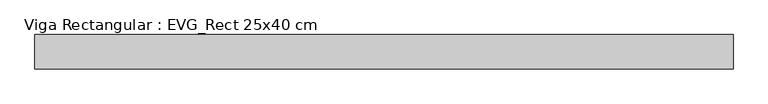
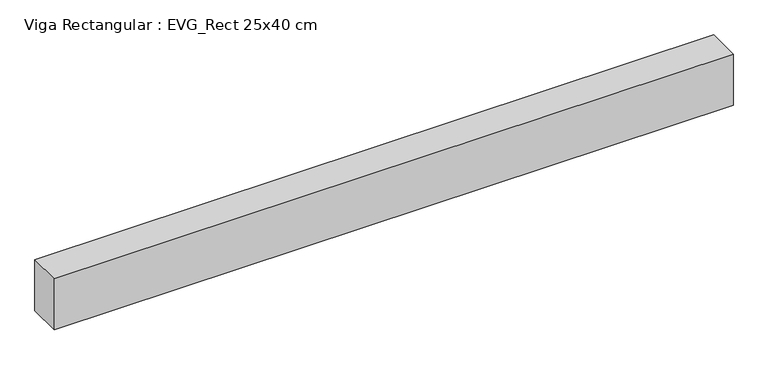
"""IFC4 building model written with IfcOpenShell, lengths in millimetres: beam geometry, Viga Rectangular : EVG_Rect 25x40 cm."""

from ifc_helpers import new_model, si_unit, frame, origin, place, context, project, spatial, polyline, outline, extrude, source, transform, mapped, element, save


def viga_rectangular_evg_rect_25x40_cm_8e48b35e(model_context):
    return source(origin(), model_context, "Body", "SweptSolid", [
        extrude(outline(polyline([(2525.0, 125.0), (2525.0, -125.0), (-2525.0, -125.0), (-2525.0, 125.0), (2525.0, 125.0)])), frame((0.0, 0.0, -400.0), z_axis=(0.0, 0.0, 1.0), x_axis=(1.0, 0.0, 0.0)), (0.0, 0.0, 1.0), 400.0),
    ])


if __name__ == "__main__":
    model = new_model("IFC4")
    model_context = context("Model", 3, world=origin())
    ifc_project = project(units=[si_unit("LENGTHUNIT", "METRE", prefix="MILLI")], contexts=[model_context])
    site = spatial("IfcSite", under=ifc_project)
    building = spatial("IfcBuilding", under=site)
    placement = place(None, origin())
    viga_rectangular_evg_rect_25x40_cm_shape = viga_rectangular_evg_rect_25x40_cm_8e48b35e(model_context)
    element("IfcBeam", 1, ObjectType="Viga Rectangular : EVG_Rect 25x40 cm", at=placement, inside=building, context=model_context, shape_type="MappedRepresentation", body=[
        mapped(viga_rectangular_evg_rect_25x40_cm_shape, transform((0.0, 0.0, 0.0), x_axis=(1.0, 0.0, 0.0), y_axis=(0.0, 1.0, 0.0), z_axis=(0.0, 0.0, 1.0))),
    ])
    save(model, "model.ifc")
